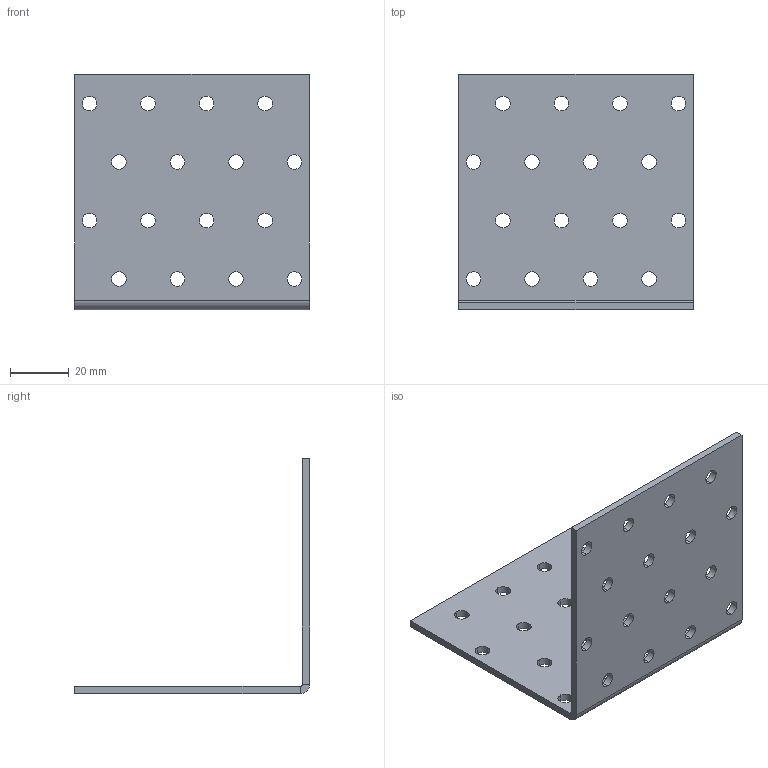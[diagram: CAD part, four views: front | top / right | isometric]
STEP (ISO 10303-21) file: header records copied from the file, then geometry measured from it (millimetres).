
FILE_DESCRIPTION (( 'STEP AP203' ), '1' );
FILE_NAME ('10508.STEP', '2020-04-20T10:58:42', ( '' ), ( '' ), 'SwSTEP 2.0', 'SolidWorks 2013', '' );
FILE_SCHEMA (( 'CONFIG_CONTROL_DESIGN' ));
Length unit declared in the file: millimetre
Products named in the file (1): 10508
Bounding box: 80 x 80.46 x 80.46 mm (x, y, z)
Volume: 29943.4 mm3; surface area: 26399.2 mm2
Topology: 1 solids, 1 shells, 78 faces, 220 edges, 144 vertices
Faces by surface type: cylinder 66, plane 12
Entity records: 2797 total; most frequent: DIRECTION 510, CARTESIAN_POINT 443, ORIENTED_EDGE 440, EDGE_CURVE 220, AXIS2_PLACEMENT_3D 211, VERTEX_POINT 144, EDGE_LOOP 142, CIRCLE 132
